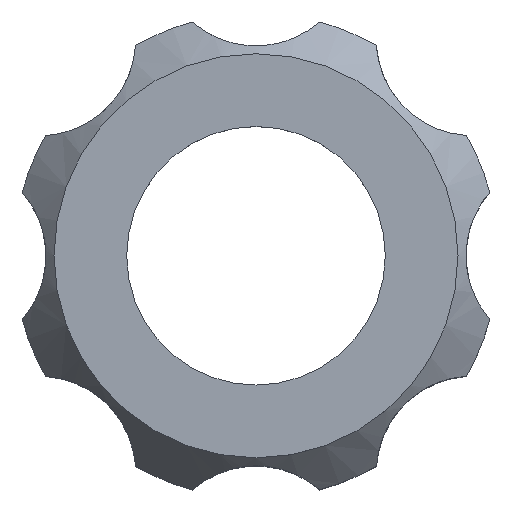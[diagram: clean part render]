
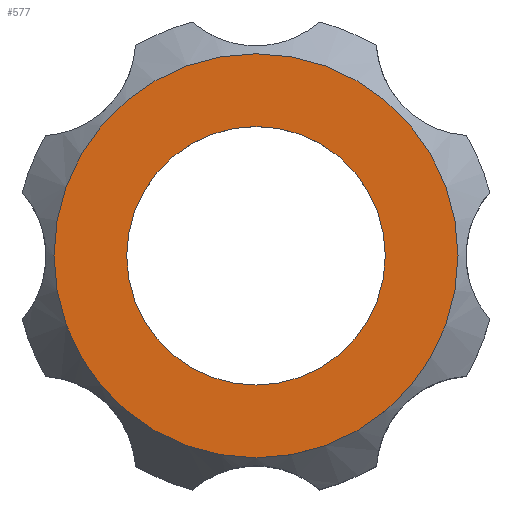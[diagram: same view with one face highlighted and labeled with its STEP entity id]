
A CAD part, top view. The second image highlights one B-rep face of the part: STEP entity #577.
In plain terms, the highlighted planar face has unit normal (0, 0, 1).
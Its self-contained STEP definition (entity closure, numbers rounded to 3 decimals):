
#20=FACE_BOUND('',#116,.T.);
#23=PLANE('',#655);
#29=CIRCLE('',#614,8.);
#55=CIRCLE('',#652,12.5);
#81=FACE_OUTER_BOUND('',#115,.T.);
#115=EDGE_LOOP('',(#463));
#116=EDGE_LOOP('',(#464));
#226=VERTEX_POINT('',#1125);
#260=VERTEX_POINT('',#2136);
#287=EDGE_CURVE('',#226,#226,#29,.T.);
#337=EDGE_CURVE('',#260,#260,#55,.T.);
#463=ORIENTED_EDGE('',*,*,#337,.T.);
#464=ORIENTED_EDGE('',*,*,#287,.T.);
#577=ADVANCED_FACE('',(#81,#20),#23,.T.);
#614=AXIS2_PLACEMENT_3D('',#1126,#699,#700);
#652=AXIS2_PLACEMENT_3D('',#2137,#792,#793);
#655=AXIS2_PLACEMENT_3D('',#2143,#799,#800);
#699=DIRECTION('center_axis',(0.,0.,-1.));
#700=DIRECTION('ref_axis',(-1.,0.,0.));
#792=DIRECTION('center_axis',(0.,0.,1.));
#793=DIRECTION('ref_axis',(1.,0.,0.));
#799=DIRECTION('center_axis',(0.,0.,1.));
#800=DIRECTION('ref_axis',(1.,0.,0.));
#1125=CARTESIAN_POINT('',(8.,0.,11.));
#1126=CARTESIAN_POINT('Origin',(0.,0.,11.));
#2136=CARTESIAN_POINT('',(-12.5,0.,11.));
#2137=CARTESIAN_POINT('Origin',(0.,0.,11.));
#2143=CARTESIAN_POINT('Origin',(0.,0.,11.));
